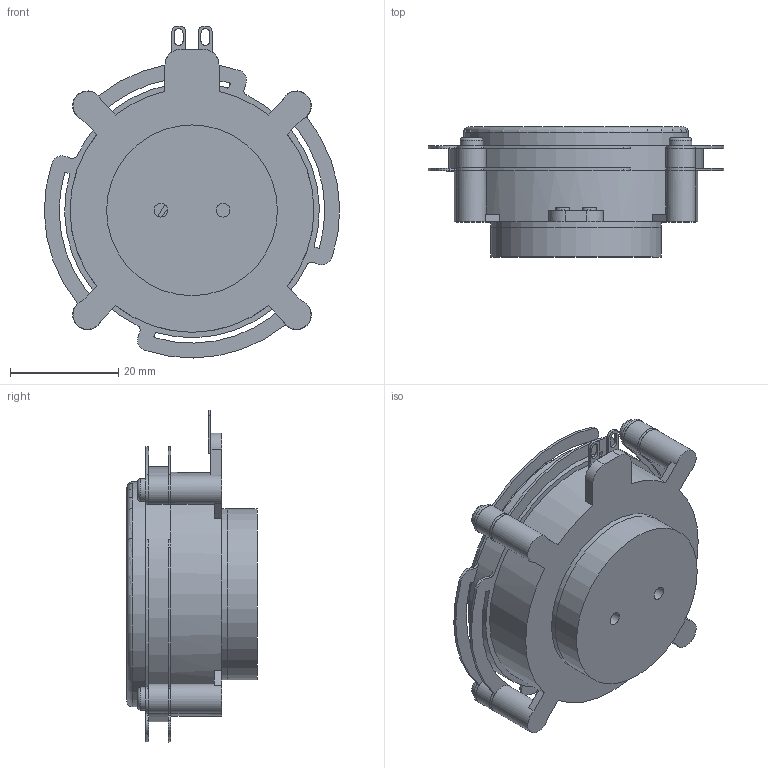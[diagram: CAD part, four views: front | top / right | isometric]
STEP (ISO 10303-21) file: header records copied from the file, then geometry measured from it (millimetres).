
FILE_DESCRIPTION(/* description */ (''),/* implementation_level */ '2;1');
FILE_NAME(/* name */ 'DAEX32Q-8 and -4.step',/* time_stamp */ '2025-12-10T16:17:25-05:00',/* author */ (''),/* organization */ (''),/* preprocessor_version */ 'ST-DEVELOPER v20.1',/* originating_system */ 'Autodesk Translation Framework v14.21.0.0',/* authorisation */ '');
FILE_SCHEMA (('AUTOMOTIVE_DESIGN { 1 0 10303 214 3 1 1 }'));
Length unit declared in the file: millimetre
Products named in the file (1): RMD00324A24-DADIP
Bounding box: 54.5 x 24 x 61.25 mm (x, y, z)
Volume: 32095.6 mm3; surface area: 12397.4 mm2
Topology: 2 solids, 2 shells, 270 faces, 797 edges, 541 vertices
Faces by surface type: plane 129, cylinder 107, bspline 29, torus 5
Full cylindrical faces by diameter (mm): 2.5 x2, 4.2 x4, 5.4 x8, 20.3 x1, 23.5 x2, 31.5 x2, 41.5 x1, 45 x1, 47 x1
Entity records: 15666 total; most frequent: CARTESIAN_POINT 8417, ORIENTED_EDGE 1594, DIRECTION 1410, EDGE_CURVE 797, VERTEX_POINT 541, AXIS2_PLACEMENT_3D 493, LINE 424, VECTOR 424
